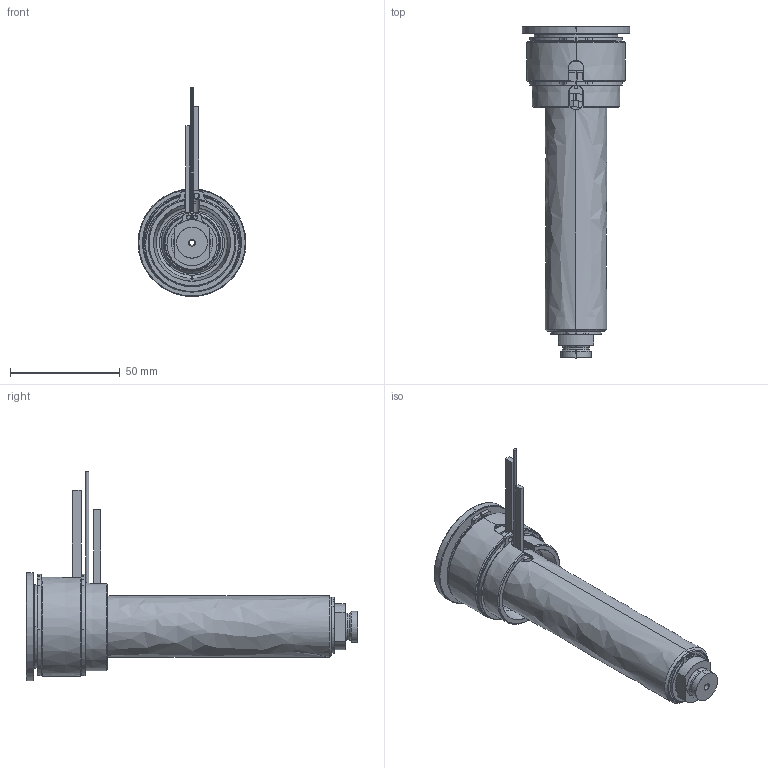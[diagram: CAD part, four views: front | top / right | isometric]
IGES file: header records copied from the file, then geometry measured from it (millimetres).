
Start section: SolidWorks IGES file using analytic representation for surfaces
Global section: file name: C:\Documents and Settings\ws-20\Desktop\TEM\UGBE4503-S-A-3 [Ød-2.5 P-0 ØC-09].IGS; native system: SolidWorks 2012; preprocessor: SolidWorks 2012; author: ws-20; date: 120412.153244; units: millimetre
Bounding box: 49 x 151 x 95.15 mm (x, y, z)
Surface area: 56823.5 mm2 (no closed solid volume)
Topology: 0 solids, 0 shells, 169 faces, 3217 edges, 3217 vertices
Faces by surface type: revolution 107, bspline 62
